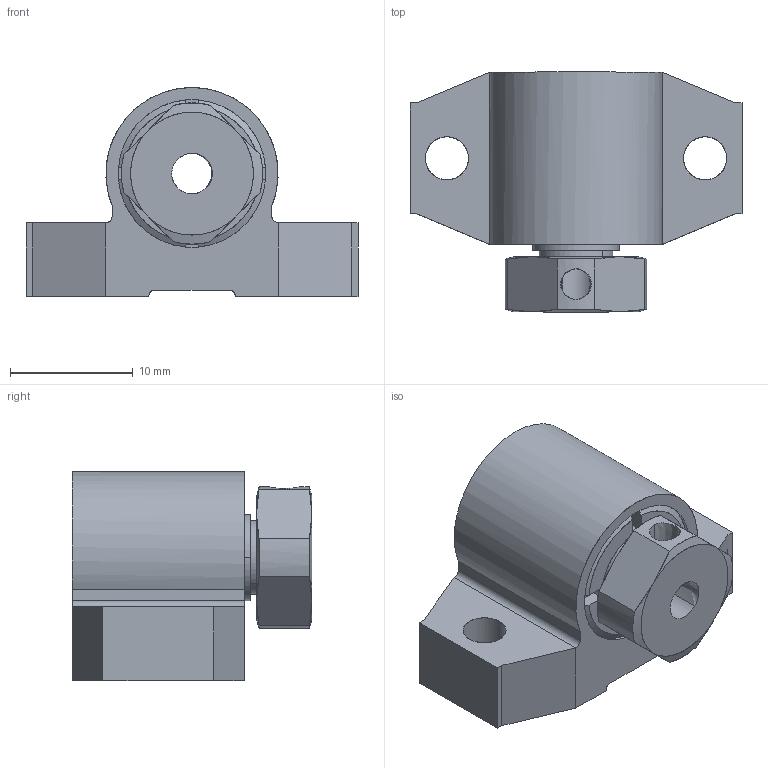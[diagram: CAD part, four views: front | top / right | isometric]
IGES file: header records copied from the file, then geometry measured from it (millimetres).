
Global section: native system: Kubotek KeyCreator; preprocessor: KCM Version 1.1.1442.0; author: KeyCreator User; organization: Self; date: 20210430.045446; units: millimetre
Bounding box: 27 x 19.5 x 17 mm (x, y, z)
Surface area: 2487.8 mm2 (no closed solid volume)
Topology: 0 solids, 0 shells, 102 faces, 643 edges, 643 vertices
Faces by surface type: bspline 102
